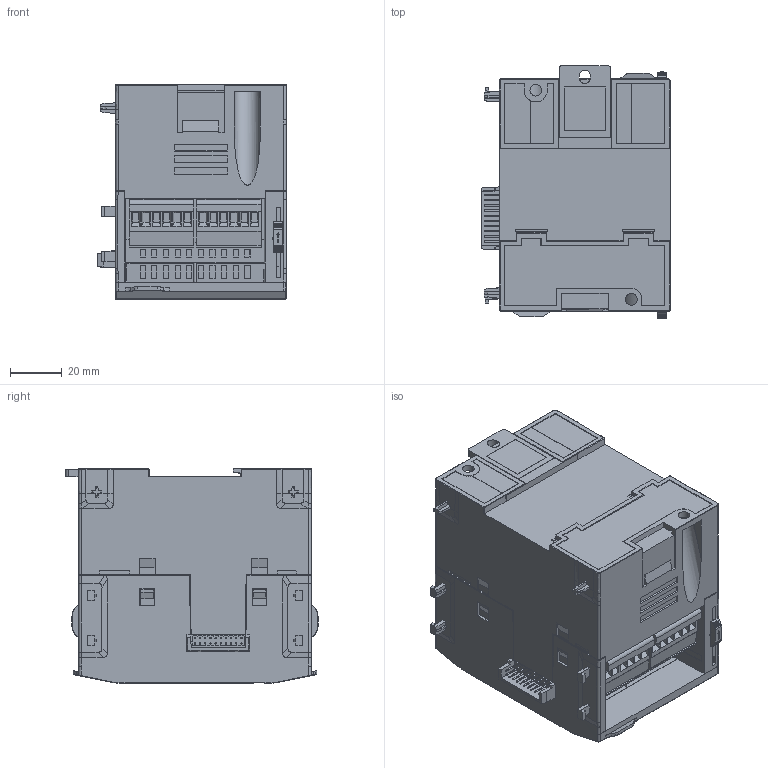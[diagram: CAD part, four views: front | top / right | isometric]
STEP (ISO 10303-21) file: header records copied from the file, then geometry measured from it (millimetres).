
FILE_DESCRIPTION((''),'2;1');
FILE_NAME('FL3-16E','2022-10-27T11:07:36',('flexem'),(''),'CREO PARAMETRIC BY PTC INC, 2016510','CREO PARAMETRIC BY PTC INC, 2016510','');
FILE_SCHEMA(('CONFIG_CONTROL_DESIGN'));
Products named in the file (1): FL3-16E
Bounding box: 73.15 x 97.7 x 83 mm (x, y, z)
Volume: 444144.4 mm3; surface area: 57996.7 mm2
Topology: 1 solids, 8 shells, 2709 faces, 7672 edges, 5139 vertices
Faces by surface type: plane 1930, cylinder 516, torus 110, cone 93, bspline 47, extrusion 7, sphere 6
Entity records: 95682 total; most frequent: CARTESIAN_POINT 25487, ORIENTED_EDGE 15332, DIRECTION 13585, EDGE_CURVE 7666, VECTOR 5353, LINE 5346, VERTEX_POINT 5139, AXIS2_PLACEMENT_3D 4116
